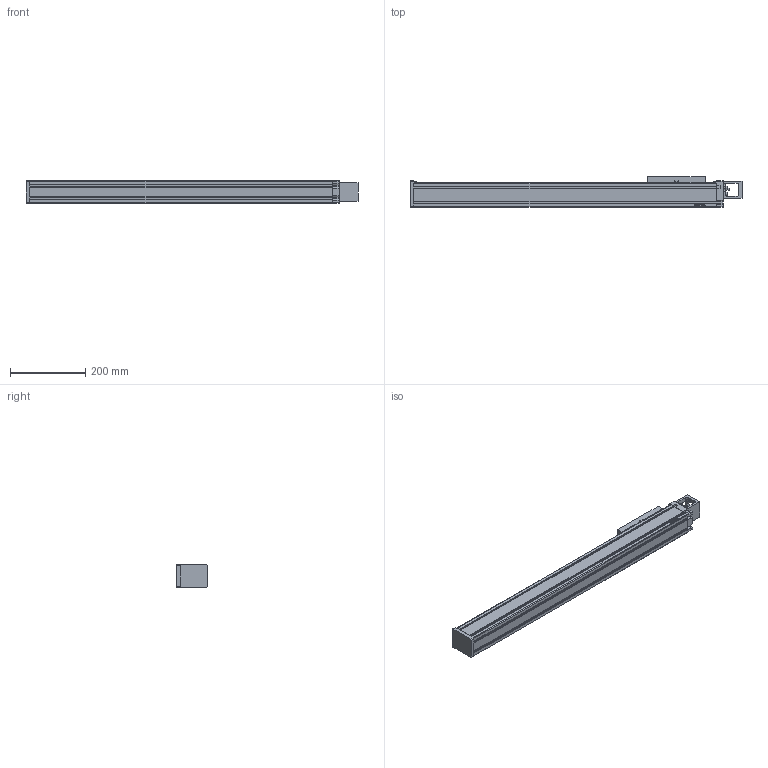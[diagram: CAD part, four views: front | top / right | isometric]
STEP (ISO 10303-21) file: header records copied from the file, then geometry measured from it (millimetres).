
FILE_DESCRIPTION(/* description */ (''),/* implementation_level */ '2;1');
FILE_NAME(/* name */ 'D:\混合母檔20191031\混和母檔\混和母檔\bin\Debug\Download\3D\KU60-10C-600AF0\KU60-10C-600AF0.stp',/* time_stamp */ '2019-11-04T16:39:32+08:00',/* author */ ('user'),/* organization */ (''),/* preprocessor_version */ 'ST-DEVELOPER v16.13',/* originating_system */ 'Autodesk Inventor 2018',/* authorisation */ '');
FILE_SCHEMA (('AUTOMOTIVE_DESIGN { 1 0 10303 214 3 1 1 }'));
Length unit declared in the file: millimetre
Products named in the file (3): KU60-10C-600AF0; KU060-F0-BP; KU60-SL
Assembly tree (2 placements, depth 2):
  KU60-10C-600AF0
    KU060-F0-BP
    KU60-SL
Bounding box: 881 x 82 x 60 mm (x, y, z)
Volume: 3236363.5 mm3; surface area: 333711.8 mm2
Topology: 2 solids, 14 shells, 756 faces, 2087 edges, 1370 vertices
Faces by surface type: plane 448, bspline 140, cylinder 133, cone 23, torus 12
Full cylindrical faces by diameter (mm): 2.459 x8, 3 x4, 3.242 x16, 3.5 x4, 4.5 x4, 5 x4, 5.5 x4, 5.7 x4, 6 x1, 8 x1, 8.5 x4, 30 x1, 35 x1
Entity records: 24568 total; most frequent: CARTESIAN_POINT 6539, ORIENTED_EDGE 3902, DIRECTION 3204, EDGE_CURVE 1951, VERTEX_POINT 1321, LINE 1288, VECTOR 1288, AXIS2_PLACEMENT_3D 958
